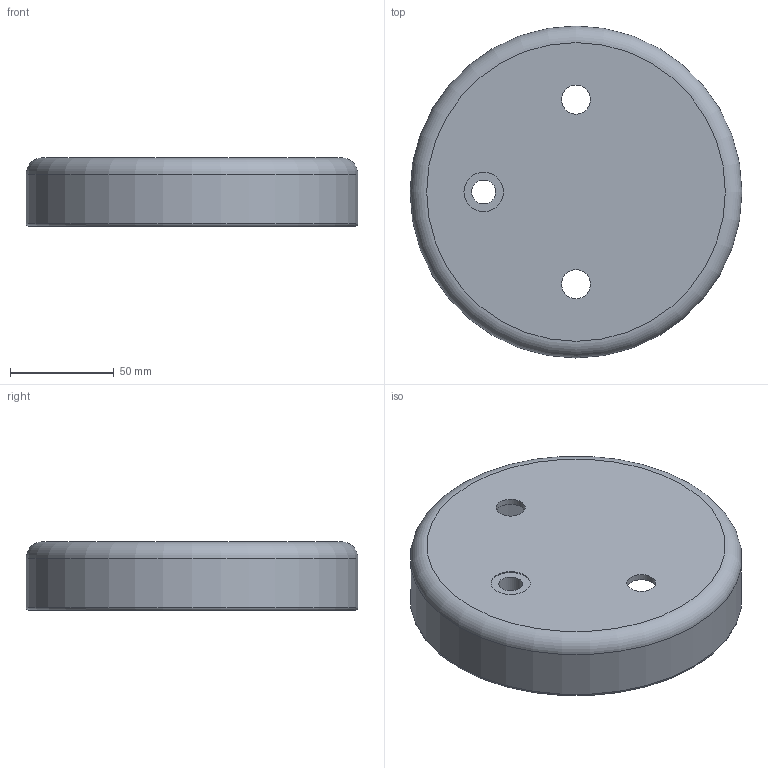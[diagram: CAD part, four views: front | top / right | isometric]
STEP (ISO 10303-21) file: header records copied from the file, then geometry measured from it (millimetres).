
FILE_DESCRIPTION(('Open CASCADE Model'),'2;1');
FILE_NAME('Open CASCADE Shape Model','2026-10-31T13:37:41',('Author'),( 'Open CASCADE'),'Open CASCADE STEP processor 7.9','Open CASCADE 7.9' ,'Unknown');
FILE_SCHEMA(('AUTOMOTIVE_DESIGN { 1 0 10303 214 1 1 1 1 }'));
Length unit declared in the file: millimetre
Products named in the file (1): Open CASCADE STEP translator 7.9 2
Bounding box: 160 x 160 x 33 mm (x, y, z)
Volume: 97262.6 mm3; surface area: 69296.9 mm2
Topology: 1 solids, 1 shells, 15 faces, 27 edges, 17 vertices
Faces by surface type: cylinder 7, plane 5, torus 3
Full cylindrical faces by diameter (mm): 11.5 x1, 14 x2, 17.5 x1, 19 x1, 154 x1, 160 x1
Entity records: 744 total; most frequent: DIRECTION 127, CARTESIAN_POINT 120, ORIENTED_EDGE 54, PCURVE 54, DEFINITIONAL_REPRESENTATION 54, LINE 41, VECTOR 41, AXIS2_PLACEMENT_3D 36
